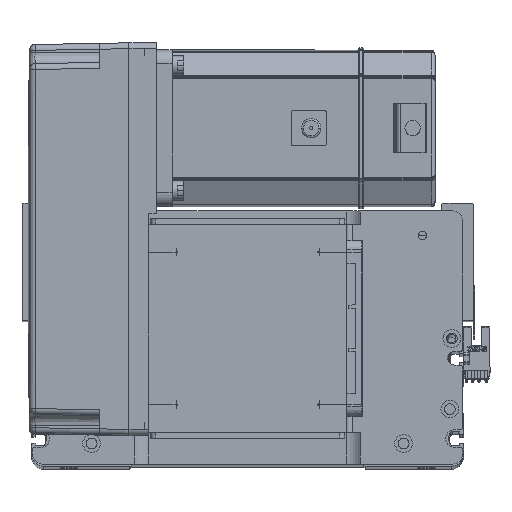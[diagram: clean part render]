
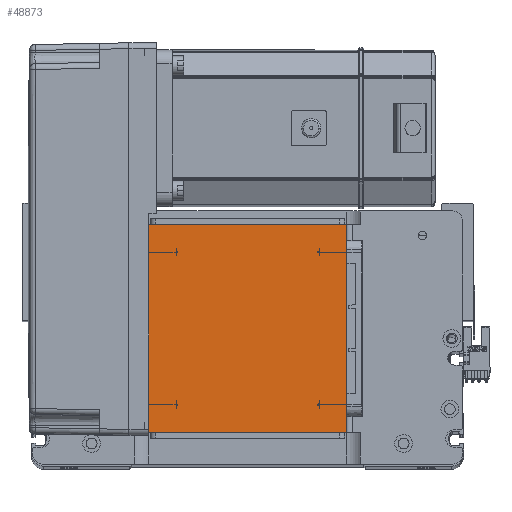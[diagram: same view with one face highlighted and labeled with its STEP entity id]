
A CAD part, top view. The second image highlights one B-rep face of the part: STEP entity #48873.
In plain terms, the highlighted planar face has unit normal (0, 0, 1).
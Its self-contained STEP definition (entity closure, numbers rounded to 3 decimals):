
#299 = CARTESIAN_POINT ( 'NONE',  ( 50.5, 16., 115. ) ) ;
#766 = ORIENTED_EDGE ( 'NONE', *, *, #30612, .T. ) ;
#2727 = DIRECTION ( 'NONE',  ( 1., 0., 0. ) ) ;
#6504 = VECTOR ( 'NONE', #50092, 1000. ) ;
#6694 = CARTESIAN_POINT ( 'NONE',  ( -50.5, 16., 115. ) ) ;
#8223 = VERTEX_POINT ( 'NONE', #24330 ) ;
#8468 = EDGE_CURVE ( 'NONE', #8223, #17768, #12247, .T. ) ;
#8744 = EDGE_CURVE ( 'NONE', #28329, #8223, #47711, .T. ) ;
#9319 = CARTESIAN_POINT ( 'NONE',  ( -50.5, 122., 115. ) ) ;
#9408 = ORIENTED_EDGE ( 'NONE', *, *, #8744, .T. ) ;
#9983 = DIRECTION ( 'NONE',  ( 1., 0., 0. ) ) ;
#10540 = CARTESIAN_POINT ( 'NONE',  ( 0., 0., 115. ) ) ;
#11195 = CARTESIAN_POINT ( 'NONE',  ( 50.5, 122., 115. ) ) ;
#12247 = LINE ( 'NONE', #6694, #13488 ) ;
#13488 = VECTOR ( 'NONE', #9983, 1000. ) ;
#14337 = DIRECTION ( 'NONE',  ( 0., 0., 1. ) ) ;
#17768 = VERTEX_POINT ( 'NONE', #299 ) ;
#23332 = CARTESIAN_POINT ( 'NONE',  ( -50.5, 122., 115. ) ) ;
#23888 = VERTEX_POINT ( 'NONE', #24394 ) ;
#24324 = EDGE_LOOP ( 'NONE', ( #9408, #24516, #766, #29294 ) ) ;
#24330 = CARTESIAN_POINT ( 'NONE',  ( -50.5, 16., 115. ) ) ;
#24394 = CARTESIAN_POINT ( 'NONE',  ( 50.5, 122., 115. ) ) ;
#24516 = ORIENTED_EDGE ( 'NONE', *, *, #8468, .T. ) ;
#27338 = DIRECTION ( 'NONE',  ( 0., -1., 0. ) ) ;
#28329 = VERTEX_POINT ( 'NONE', #9319 ) ;
#29294 = ORIENTED_EDGE ( 'NONE', *, *, #32932, .T. ) ;
#30612 = EDGE_CURVE ( 'NONE', #17768, #23888, #37267, .T. ) ;
#31551 = DIRECTION ( 'NONE',  ( 0., 1., 0. ) ) ;
#32932 = EDGE_CURVE ( 'NONE', #23888, #28329, #50004, .T. ) ;
#34244 = PLANE ( 'NONE',  #50652 ) ;
#37193 = VECTOR ( 'NONE', #27338, 1000. ) ;
#37267 = LINE ( 'NONE', #11195, #45961 ) ;
#41983 = CARTESIAN_POINT ( 'NONE',  ( -50.5, 122., 115. ) ) ;
#45961 = VECTOR ( 'NONE', #31551, 1000. ) ;
#47711 = LINE ( 'NONE', #23332, #37193 ) ;
#48873 = ADVANCED_FACE ( 'NONE', ( #49727 ), #34244, .T. ) ;
#49727 = FACE_OUTER_BOUND ( 'NONE', #24324, .T. ) ;
#50004 = LINE ( 'NONE', #41983, #6504 ) ;
#50092 = DIRECTION ( 'NONE',  ( -1., 0., 0. ) ) ;
#50652 = AXIS2_PLACEMENT_3D ( 'NONE', #10540, #14337, #2727 ) ;
